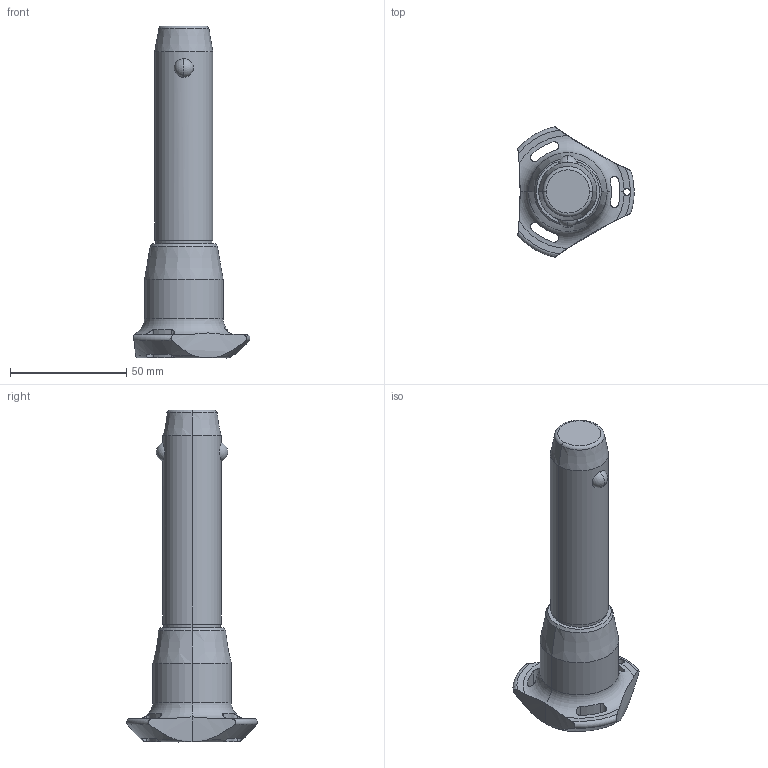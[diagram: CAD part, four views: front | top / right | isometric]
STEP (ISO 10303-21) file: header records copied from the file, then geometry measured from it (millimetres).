
FILE_DESCRIPTION (( 'STEP AP203' ), '1' );
FILE_NAME ('QR1704.M25-070-S.step', '2025-11-12T09:38:35', ( '' ), ( '' ), 'SwSTEP 2.0', 'SolidWorks 2019', '' );
FILE_SCHEMA (( 'CONFIG_CONTROL_DESIGN' ));
Length unit declared in the file: millimetre
Products named in the file (1): QR1704.M25-070-S
Bounding box: 50.04 x 56.02 x 142.7 mm (x, y, z)
Volume: 92814.7 mm3; surface area: 16947 mm2
Topology: 1 solids, 1 shells, 65 faces, 176 edges, 111 vertices
Faces by surface type: cylinder 30, cone 14, torus 11, sphere 6, plane 4
Entity records: 2858 total; most frequent: CARTESIAN_POINT 1179, ORIENTED_EDGE 352, DIRECTION 329, EDGE_CURVE 176, AXIS2_PLACEMENT_3D 147, VERTEX_POINT 111, CIRCLE 81, EDGE_LOOP 71
